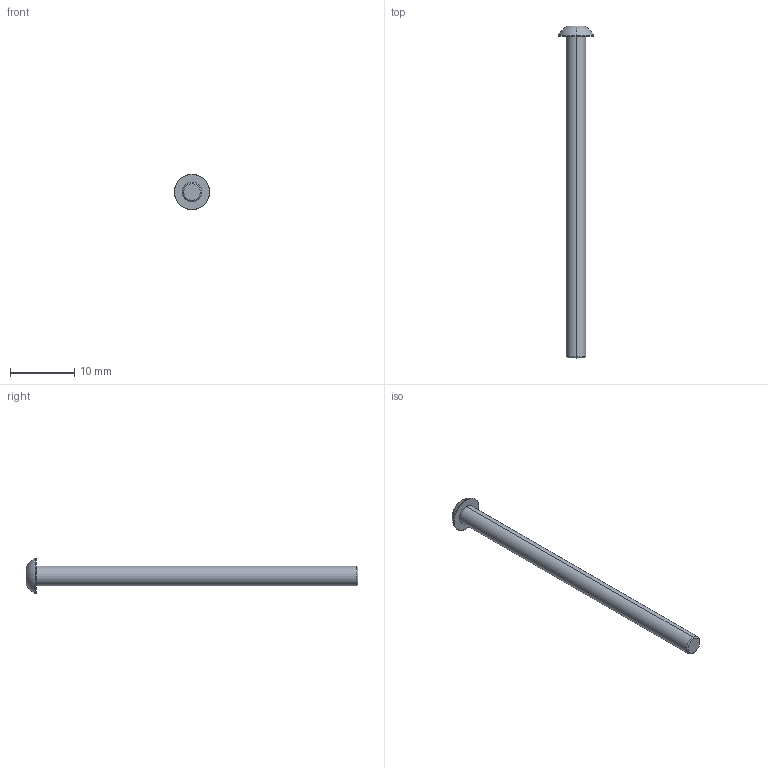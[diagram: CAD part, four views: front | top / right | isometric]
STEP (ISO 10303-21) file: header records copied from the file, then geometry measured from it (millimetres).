
FILE_DESCRIPTION (( 'STEP AP203' ), '1' );
FILE_NAME ('LGDD-304-M3x50.STEP', '2026-08-08T02:38:27', ( '' ), ( '' ), 'SwSTEP 2.0', 'SolidWorks 2020', '' );
FILE_SCHEMA (( 'CONFIG_CONTROL_DESIGN' ));
Length unit declared in the file: millimetre
Products named in the file (1): LGDD-304-M3x50
Bounding box: 5.5 x 51.6 x 5.5 mm (x, y, z)
Volume: 374.9 mm3; surface area: 538.3 mm2
Topology: 1 solids, 1 shells, 31 faces, 59 edges, 32 vertices
Faces by surface type: plane 10, cone 9, torus 8, cylinder 4
Entity records: 876 total; most frequent: CARTESIAN_POINT 166, DIRECTION 149, ORIENTED_EDGE 118, AXIS2_PLACEMENT_3D 65, EDGE_CURVE 59, EDGE_LOOP 33, CIRCLE 33, VERTEX_POINT 32
